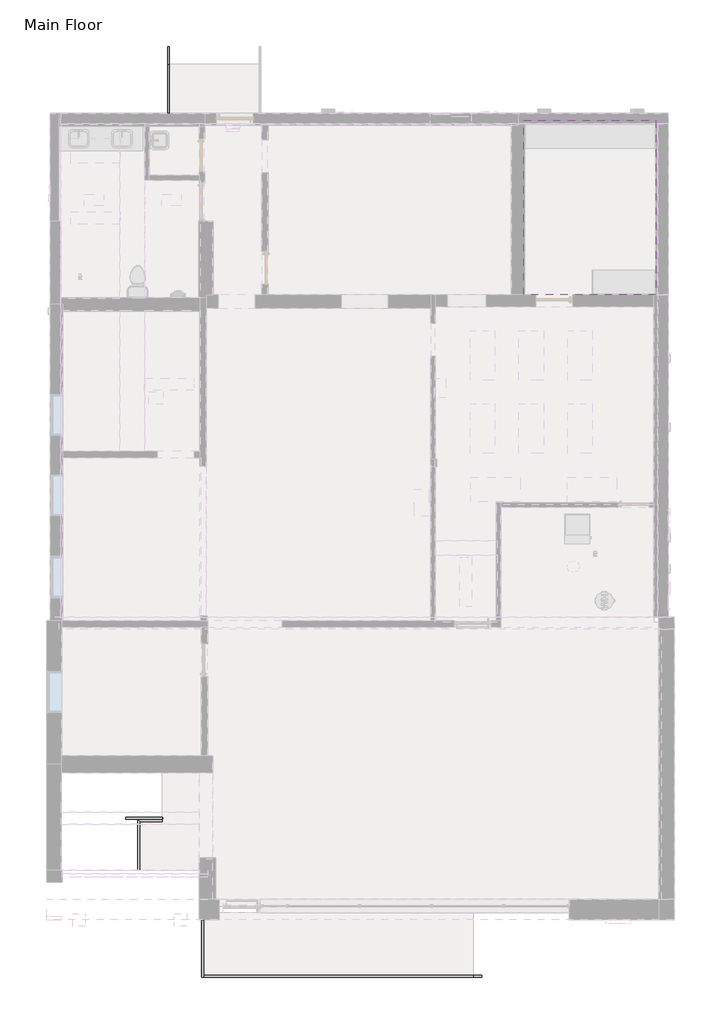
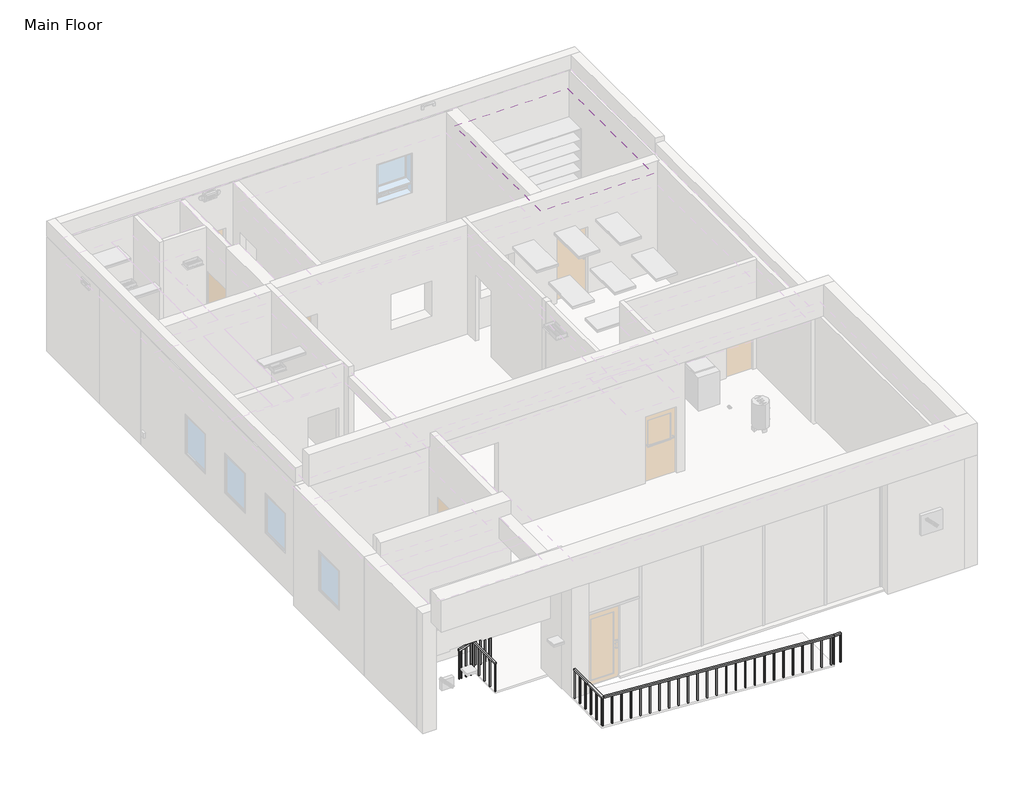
# One storey, part 3 of 4: 4 railings, 1 covering.
"""IFC4 building model written with IfcOpenShell, lengths in millimetres."""

import ifcopenshell
import ifcopenshell.guid

model = None  # the IFC model being written
_history = None  # IfcOwnerHistory: only IFC2X3 demands one
_inside = {}  # id of a spatial element -> (the spatial element, [elements in it])
_under = {}  # id of a project, library or spatial element -> (it, [spatial elements below it])
_declared = {}  # id of a project -> (the project, [libraries it declares])
_typed = {}  # id of a type object -> (the type object, [elements of that type])
_made_of = {}  # id of a material, layer set ... -> (it, [elements and type objects made of it])


def new_model(schema):
    """Start an empty IFC model of exactly this schema.

    Asked for "IFC4X3", IfcOpenShell would pick the latest addendum, in which some entities
    have other attributes; the version numbers below select the first issue.
    IFC2X3 requires an IfcOwnerHistory on every rooted entity: one is made here for all.
    """
    global model, _history
    if schema == "IFC4X3":
        model = ifcopenshell.file(schema_version=(4, 3, 0, 0))
    else:
        model = ifcopenshell.file(schema=schema)
    _inside.clear()
    _under.clear()
    _declared.clear()
    _typed.clear()
    _made_of.clear()
    _history = None
    if model.schema == "IFC2X3":
        org = make("IfcOrganization", Name="unknown")
        user = make(
            "IfcPersonAndOrganization",
            ThePerson=make("IfcPerson", FamilyName="unknown"),
            TheOrganization=org,
        )
        app = make(
            "IfcApplication",
            ApplicationDeveloper=org,
            Version="unknown",
            ApplicationFullName="unknown",
            ApplicationIdentifier="unknown",
        )
        _history = make(
            "IfcOwnerHistory",
            OwningUser=user,
            OwningApplication=app,
            ChangeAction="ADDED",
            CreationDate=0,
        )
    return model


def make(cls, **values):
    """One entity of the class cls with the attributes given. An attribute that is None is left unset."""
    return model.create_entity(
        cls, **{name: value for name, value in values.items() if value is not None}
    )


def rooted(cls, **values):
    """An entity with a GlobalId (a new one), such as an element, a storey or a relation."""
    return make(cls, GlobalId=ifcopenshell.guid.new(), OwnerHistory=_history, **values)


def si_unit(unit_type, name, prefix=None):
    """IfcSIUnit, for example si_unit("LENGTHUNIT", "METRE", prefix="MILLI")."""
    return make("IfcSIUnit", UnitType=unit_type, Prefix=prefix, Name=name)


def assignment(units):
    """IfcUnitAssignment: the units of a project."""
    return None if units is None else make("IfcUnitAssignment", Units=units)


def point(xyz):
    """IfcCartesianPoint."""
    return None if xyz is None else make("IfcCartesianPoint", Coordinates=xyz)


def direction(xyz):
    """IfcDirection."""
    return None if xyz is None else make("IfcDirection", DirectionRatios=xyz)


def frame(location, z_axis=None, x_axis=None):
    """IfcAxis2Placement3D, a coordinate frame: its origin and axes. An axis left out is left unset."""
    return make(
        "IfcAxis2Placement3D",
        Location=point(location),
        Axis=direction(z_axis),
        RefDirection=direction(x_axis),
    )


def frame_2d(location, x_axis=None):
    """IfcAxis2Placement2D, a coordinate frame in the plane: its origin and x axis."""
    return make(
        "IfcAxis2Placement2D", Location=point(location), RefDirection=direction(x_axis)
    )


def origin():
    """The frame at (0, 0, 0) with its axes left unset."""
    return frame((0.0, 0.0, 0.0))


def origin_with_axes():
    """The frame at (0, 0, 0) with the z axis (0, 0, 1) and the x axis (1, 0, 0) written out."""
    return frame((0.0, 0.0, 0.0), z_axis=(0.0, 0.0, 1.0), x_axis=(1.0, 0.0, 0.0))


def place(relative_to, where):
    """IfcLocalPlacement: puts the frame where relative to a parent placement (None: the world)."""
    return make(
        "IfcLocalPlacement", PlacementRelTo=relative_to, RelativePlacement=where
    )


def context(
    kind, dimensions, precision=None, world=None, true_north=None, identifier=None
):
    """IfcGeometricRepresentationContext, for example the 3D "Model" context."""
    return make(
        "IfcGeometricRepresentationContext",
        ContextIdentifier=identifier,
        ContextType=kind,
        CoordinateSpaceDimension=dimensions,
        Precision=precision,
        WorldCoordinateSystem=world,
        TrueNorth=true_north,
    )


def project(units=None, contexts=None):
    """IfcProject with its units and contexts."""
    return rooted(
        "IfcProject",
        Name="project",
        RepresentationContexts=contexts,
        UnitsInContext=assignment(units),
    )


def spatial(cls, under=None, at=None, **own):
    """A site, building, storey or space (cls), placed at a placement, below another one or the project."""
    s = rooted(cls, ObjectPlacement=at, **own)
    if under is not None:
        _under.setdefault(under.id(), (under, []))[1].append(s)
    return s


def polyline(points):
    """IfcPolyline through the points."""
    return make("IfcPolyline", Points=[point(p) for p in points])


def circle_curve(where, radius):
    """IfcCircle in the frame where."""
    return make("IfcCircle", Position=where, Radius=radius)


def ellipse_curve(where, semi_axis1, semi_axis2):
    """IfcEllipse in the frame where."""
    return make(
        "IfcEllipse", Position=where, SemiAxis1=semi_axis1, SemiAxis2=semi_axis2
    )


def trimmed(basis, trim1, trim2, sense, master):
    """IfcTrimmedCurve: the piece of a basis curve between two trims."""
    return make(
        "IfcTrimmedCurve",
        BasisCurve=basis,
        Trim1=trim1,
        Trim2=trim2,
        SenseAgreement=sense,
        MasterRepresentation=master,
    )


def segment(curve, same_sense, transition):
    """IfcCompositeCurveSegment."""
    return make(
        "IfcCompositeCurveSegment",
        Transition=transition,
        SameSense=same_sense,
        ParentCurve=curve,
    )


def composite_curve(segments, self_intersect=None):
    """IfcCompositeCurve: segments joined end to end."""
    return make("IfcCompositeCurve", Segments=segments, SelfIntersect=self_intersect)


def outline(outer, holes=None, kind="AREA"):
    """IfcArbitraryClosedProfileDef: a profile drawn as a closed curve; with holes, ...WithVoids."""
    if holes is None:
        return make("IfcArbitraryClosedProfileDef", ProfileType=kind, OuterCurve=outer)
    return make(
        "IfcArbitraryProfileDefWithVoids",
        ProfileType=kind,
        OuterCurve=outer,
        InnerCurves=holes,
    )


def extrude(swept, where, along, depth):
    """IfcExtrudedAreaSolid: the profile swept, set in the frame where, extruded along a direction by depth."""
    return make(
        "IfcExtrudedAreaSolid",
        SweptArea=swept,
        Position=where,
        ExtrudedDirection=direction(along),
        Depth=depth,
    )


def faces_of(points, faces, orient=None, outer=None):
    """IfcFace entities. A face is a list of loops; a loop is a list of indices into points, from 0.

    orient and outer hold one flag for each loop. By default every Orientation is true, the
    first loop of a face is its IfcFaceOuterBound and the others are IfcFaceBound.
    """
    made = []
    for i, loops in enumerate(faces):
        bounds = []
        for j, loop in enumerate(loops):
            is_outer = j == 0 if outer is None else outer[i][j]
            bounds.append(
                make(
                    "IfcFaceOuterBound" if is_outer else "IfcFaceBound",
                    Bound=make("IfcPolyLoop", Polygon=[points[k] for k in loop]),
                    Orientation=True if orient is None else orient[i][j],
                )
            )
        made.append(make("IfcFace", Bounds=bounds))
    return made


def faceted_brep(points, faces, orient=None, outer=None, voids=None):
    """IfcFacetedBrep: a solid bounded by flat faces; with voids (closed shells), ...WithVoids."""
    shared = [point(p) for p in points]
    hull = make("IfcClosedShell", CfsFaces=faces_of(shared, faces, orient, outer))
    if voids is None:
        return make("IfcFacetedBrep", Outer=hull)
    return make(
        "IfcFacetedBrepWithVoids",
        Outer=hull,
        Voids=[
            make(cls, CfsFaces=faces_of(shared, fs, o, b)) for cls, fs, o, b in voids
        ],
    )


def shape(context_of_items, identifier, shape_type, items):
    """IfcShapeRepresentation: the items that make up one representation, for example the "Body"."""
    return make(
        "IfcShapeRepresentation",
        ContextOfItems=context_of_items,
        RepresentationIdentifier=identifier,
        RepresentationType=shape_type,
        Items=items,
    )


def made_of(thing, what):
    """Note that an element or type object is made of a material, layer set ...; save() writes the relation."""
    if what is not None:
        _made_of.setdefault(what.id(), (what, []))[1].append(thing)
    return thing


def element(
    cls,
    number,
    at=None,
    inside=None,
    cuts=None,
    type_object=None,
    material=None,
    context=None,
    identifier="Body",
    shape_type=None,
    held_by="IfcProductDefinitionShape",
    body=None,
    shapes=None,
    **own,
):
    """One element of the class cls, such as IfcWall. Its Tag is "e" and its number.

    at: its placement. inside: the storey or other place that contains it. cuts: it is an
    opening in that element (IfcRelVoidsElement). A single representation is given by context,
    identifier, shape_type and body (its items); several are given by shapes. held_by: the class
    of the entity that holds the representations. save() writes the other relations.
    """
    e = rooted(cls, Tag="e%d" % number, ObjectPlacement=at, **own)
    if body is not None:
        shapes = [shape(context, identifier, shape_type, body)]
    if shapes is not None:
        e.Representation = make(held_by, Representations=shapes)
    if inside is not None:
        _inside.setdefault(inside.id(), (inside, []))[1].append(e)
    if cuts is not None:
        rooted(
            "IfcRelVoidsElement", RelatingBuildingElement=cuts, RelatedOpeningElement=e
        )
    if type_object is not None:
        _typed.setdefault(type_object.id(), (type_object, []))[1].append(e)
    return made_of(e, material)


def aggregate(whole, parts):
    """IfcRelAggregates: a whole, such as a stair, and the parts it consists of."""
    return rooted("IfcRelAggregates", RelatingObject=whole, RelatedObjects=parts)


def save(model, path):
    """Write the relations noted so far, then the file.

    IfcRelAggregates (storeys below a building ...), IfcRelContainedInSpatialStructure (elements
    in a storey), IfcRelDefinesByType, IfcRelAssociatesMaterial and IfcRelDeclares: one each for
    every whole, place, type object, material and project.
    """
    for whole, parts in _under.values():
        aggregate(whole, parts)
    for where, things in _inside.values():
        rooted(
            "IfcRelContainedInSpatialStructure",
            RelatedElements=things,
            RelatingStructure=where,
        )
    for kind, things in _typed.values():
        rooted("IfcRelDefinesByType", RelatedObjects=things, RelatingType=kind)
    for what, things in _made_of.values():
        rooted("IfcRelAssociatesMaterial", RelatedObjects=things, RelatingMaterial=what)
    for by, libraries in _declared.values():
        rooted("IfcRelDeclares", RelatingContext=by, RelatedDefinitions=libraries)
    model.write(path)


def plane_surface(at):
    """IfcPlane: the flat surface through the origin of the frame at, square to its z axis."""
    return make("IfcPlane", Position=at)


def cylinder_surface(at, radius):
    """IfcCylindricalSurface: all points at the distance radius from the z axis of the frame at."""
    return make("IfcCylindricalSurface", Position=at, Radius=radius)


def advanced_brep(points, edges, surfaces, faces):
    """IfcAdvancedBrep: a solid bounded by faces that lie on surfaces and meet in shared edges.

    An edge is (start, end): straight between two places in points (the first is 0);
    or (start, end, curve); or (start, end, curve, False) where it runs against its curve.
    A face is (place in surfaces, loops), or (place, loops, False) where it looks against
    its surface's normal. A loop lists edges by number (the first is 1), with a minus sign
    where the edge is run from its end to its start. The first loop is the outer one.
    """
    corners = [point(p) for p in points]
    vertices = [make("IfcVertexPoint", VertexGeometry=c) for c in corners]
    made = []
    for start, end, *more in edges:
        made.append(
            make(
                "IfcEdgeCurve",
                EdgeStart=vertices[start],
                EdgeEnd=vertices[end],
                EdgeGeometry=more[0] if more else make("IfcPolyline", Points=[corners[start], corners[end]]),
                SameSense=more[1] if len(more) > 1 else True,
            )
        )
    hull = []
    for where, loops, *sense in faces:
        bounds = []
        for j, loop in enumerate(loops):
            ring = [make("IfcOrientedEdge", EdgeElement=made[abs(k) - 1], Orientation=k > 0) for k in loop]
            bounds.append(
                make(
                    "IfcFaceOuterBound" if j == 0 else "IfcFaceBound",
                    Bound=make("IfcEdgeLoop", EdgeList=ring),
                    Orientation=True,
                )
            )
        hull.append(make("IfcAdvancedFace", Bounds=bounds, FaceSurface=surfaces[where], SameSense=sense[0] if sense else True))
    return make("IfcAdvancedBrep", Outer=make("IfcClosedShell", CfsFaces=hull))


model = new_model("IFC4")

# Units and contexts
model_context = context("Model", 3, world=origin())
ifc_project = project(units=[si_unit("LENGTHUNIT", "METRE", prefix="MILLI")], contexts=[model_context])

# Site, building, storey
site = spatial("IfcSite", under=ifc_project)
building = spatial("IfcBuilding", under=site)
storey = spatial("IfcBuildingStorey", under=building, Name="Main Floor", Elevation=0.0)

# Covering
placement = place(None, origin())
element("IfcCovering", 1, ObjectType="2'x4' grid", at=placement, inside=storey, context=model_context, shape_type="Brep", body=[
    faceted_brep([(15544.8, 11401.425, 2795.2), (12287.0452, 11401.425, 2795.2), (12287.0452, 7092.95, 2795.2), (15544.8, 7092.95, 2795.2), (15544.8, 11401.425, 2743.2), (15544.8, 7092.95, 2743.2), (12287.0452, 7092.95, 2743.2), (12287.0452, 11401.425, 2743.2), (13912.6452, 10461.625, 2743.2), (13912.6452, 9293.225, 2743.2), (14471.4452, 9293.225, 2743.2), (14471.4452, 10461.625, 2743.2), (13912.6452, 10461.625, 2794.0), (13912.6452, 9293.225, 2794.0), (14471.4452, 9293.225, 2794.0), (14471.4452, 10461.625, 2794.0)], [[[0, 1, 2, 3]], [[4, 5, 6, 7], [8, 9, 10, 11]], [[1, 0, 4, 7]], [[2, 1, 7, 6]], [[3, 2, 6, 5]], [[0, 3, 5, 4]], [[12, 13, 9, 8]], [[13, 14, 10, 9]], [[14, 15, 11, 10]], [[15, 12, 8, 11]], [[12, 15, 14, 13]]]),
])

# Railings
element("IfcRailing", 2, ObjectType="900mm Pipe", at=placement, inside=storey, context=model_context, shape_type="SolidModel", body=[
    advanced_brep(
    [(3506.3363986, 13220.7, 570.7192329), (3546.3363986, 13220.7, 570.7192329), (3506.3363986, 11569.7, 880.0), (3546.3363986, 11569.7, 880.0), (3506.3363986, 12782.5522466, 880.0), (3546.3363986, 12782.5522466, 880.0)],
    [
        (0, 1, ellipse_curve(frame((3526.3363986, 13220.7, 570.7192329), z_axis=(0.0, 1.0, 0.0), x_axis=(0.0, 0.0, -1.0)), 24.4807671, 20.0)),
        (1, 0, ellipse_curve(frame((3526.3363986, 13220.7, 570.7192329), z_axis=(0.0, 1.0, 0.0), x_axis=(0.0, 0.0, -1.0)), 24.4807671, 20.0)),
        (2, 3, circle_curve(frame((3526.3363986, 11569.7, 880.0), z_axis=(0.0, -1.0, 0.0), x_axis=(1.0, 0.0, 0.0)), 20.0)),
        (3, 2, circle_curve(frame((3526.3363986, 11569.7, 880.0), z_axis=(0.0, -1.0, 0.0), x_axis=(1.0, 0.0, 0.0)), 20.0)),
        (0, 4),
        (4, 5, ellipse_curve(frame((3526.3363986, 12782.5522466, 880.0), z_axis=(0.0, 0.9531442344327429, -0.30251622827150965), x_axis=(0.0, -0.3025162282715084, -0.9531442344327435)), 20.9831831, 20.0)),
        (5, 1),
        (5, 4, ellipse_curve(frame((3526.3363986, 12782.5522466, 880.0), z_axis=(0.0, 0.9531442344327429, -0.30251622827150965), x_axis=(0.0, -0.3025162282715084, -0.9531442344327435)), 20.9831831, 20.0)),
        (4, 2),
        (3, 5),
    ],
    [
        plane_surface(frame((3526.3363986, 13220.7, 595.2), z_axis=(0.0, 1.0, 0.0), x_axis=(0.0, 0.0, -1.0))),
        plane_surface(frame((3526.3363986, 11569.7, 900.0), z_axis=(0.0, -1.0, 0.0), x_axis=(0.0, 0.0, -1.0))),
        cylinder_surface(frame((3526.3363986, 13209.166336, 578.8606427), z_axis=(0.0, 0.8169678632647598, -0.5766831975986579), x_axis=(1.0, 0.0, 0.0)), 20.0),
        cylinder_surface(frame((3526.3363986, 12788.9, 880.0), z_axis=(0.0, 1.0, 0.0), x_axis=(1.0, 0.0, 0.0)), 20.0),
    ],
    [
        (0, [[1, 2]]),
        (1, [[3, 4]]),
        (2, [[-1, 5, 6, 7]]),
        (2, [[-2, -7, 8, -5]]),
        (3, [[-6, 9, -4, 10]]),
        (3, [[-8, -10, -3, -9]]),
    ],
),
    advanced_brep(
    [(3511.3363986, 11569.7, 760.0), (3541.3363986, 11569.7, 760.0), (3511.3363986, 12784.1391849, 760.0), (3541.3363986, 12784.1391849, 760.0), (3511.3363986, 13220.7, 451.8394247), (3541.3363986, 13220.7, 451.8394247)],
    [
        (0, 1, circle_curve(frame((3526.3363986, 11569.7, 760.0), z_axis=(0.0, -1.0, 0.0), x_axis=(1.0, 0.0, 0.0)), 15.0)),
        (1, 0, circle_curve(frame((3526.3363986, 11569.7, 760.0), z_axis=(0.0, -1.0, 0.0), x_axis=(1.0, 0.0, 0.0)), 15.0)),
        (0, 2),
        (2, 3, ellipse_curve(frame((3526.3363986, 12784.1391849, 760.0), z_axis=(0.0, -0.9531442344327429, 0.30251622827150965), x_axis=(0.0, -0.30251622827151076, -0.9531442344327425)), 15.7373873, 15.0)),
        (3, 1),
        (3, 2, ellipse_curve(frame((3526.3363986, 12784.1391849, 760.0), z_axis=(0.0, -0.9531442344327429, 0.30251622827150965), x_axis=(0.0, -0.30251622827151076, -0.9531442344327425)), 15.7373873, 15.0)),
        (4, 5, ellipse_curve(frame((3526.3363986, 13220.7, 451.8394247), z_axis=(0.0, 1.0, 0.0), x_axis=(0.0, 0.0, 1.0)), 18.3605753, 15.0)),
        (5, 4, ellipse_curve(frame((3526.3363986, 13220.7, 451.8394247), z_axis=(0.0, 1.0, 0.0), x_axis=(0.0, 0.0, 1.0)), 18.3605753, 15.0)),
        (2, 4),
        (5, 3),
    ],
    [
        plane_surface(frame((3526.3363986, 11569.7, 775.0), z_axis=(0.0, -1.0, 0.0), x_axis=(0.0, 0.0, 1.0))),
        cylinder_surface(frame((3526.3363986, 11569.7, 760.0), z_axis=(0.0, -1.0, 0.0), x_axis=(1.0, 0.0, 0.0)), 15.0),
        plane_surface(frame((3526.3363986, 13220.7, 470.2), z_axis=(0.0, 1.0, 0.0), x_axis=(0.0, 0.0, 1.0))),
        cylinder_surface(frame((3526.3363986, 12780.249752, 762.7454821), z_axis=(0.0, -0.8169678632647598, 0.576683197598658), x_axis=(1.0, 0.0, 0.0)), 15.0),
    ],
    [
        (0, [[1, 2]]),
        (1, [[-1, 3, 4, 5]]),
        (1, [[-2, -5, 6, -3]]),
        (2, [[7, 8]]),
        (3, [[-4, 9, -8, 10]]),
        (3, [[-6, -10, -7, -9]]),
    ],
),
    advanced_brep(
    [(3511.3363986, 11569.7, 635.0), (3541.3363986, 11569.7, 635.0), (3511.3363986, 12784.1391849, 635.0), (3541.3363986, 12784.1391849, 635.0), (3511.3363986, 13220.7, 326.8394247), (3541.3363986, 13220.7, 326.8394247)],
    [
        (0, 1, circle_curve(frame((3526.3363986, 11569.7, 635.0), z_axis=(0.0, -1.0, 0.0), x_axis=(1.0, 0.0, 0.0)), 15.0)),
        (1, 0, circle_curve(frame((3526.3363986, 11569.7, 635.0), z_axis=(0.0, -1.0, 0.0), x_axis=(1.0, 0.0, 0.0)), 15.0)),
        (0, 2),
        (2, 3, ellipse_curve(frame((3526.3363986, 12784.1391849, 635.0), z_axis=(0.0, -0.9531442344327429, 0.30251622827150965), x_axis=(0.0, -0.30251622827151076, -0.9531442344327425)), 15.7373873, 15.0)),
        (3, 1),
        (3, 2, ellipse_curve(frame((3526.3363986, 12784.1391849, 635.0), z_axis=(0.0, -0.9531442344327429, 0.30251622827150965), x_axis=(0.0, -0.30251622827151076, -0.9531442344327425)), 15.7373873, 15.0)),
        (4, 5, ellipse_curve(frame((3526.3363986, 13220.7, 326.8394247), z_axis=(0.0, 1.0, 0.0), x_axis=(0.0, 0.0, 1.0)), 18.3605753, 15.0)),
        (5, 4, ellipse_curve(frame((3526.3363986, 13220.7, 326.8394247), z_axis=(0.0, 1.0, 0.0), x_axis=(0.0, 0.0, 1.0)), 18.3605753, 15.0)),
        (2, 4),
        (5, 3),
    ],
    [
        plane_surface(frame((3526.3363986, 11569.7, 650.0), z_axis=(0.0, -1.0, 0.0), x_axis=(0.0, 0.0, 1.0))),
        cylinder_surface(frame((3526.3363986, 11569.7, 635.0), z_axis=(0.0, -1.0, 0.0), x_axis=(1.0, 0.0, 0.0)), 15.0),
        plane_surface(frame((3526.3363986, 13220.7, 345.2), z_axis=(0.0, 1.0, 0.0), x_axis=(0.0, 0.0, 1.0))),
        cylinder_surface(frame((3526.3363986, 12780.249752, 637.7454821), z_axis=(0.0, -0.8169678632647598, 0.576683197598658), x_axis=(1.0, 0.0, 0.0)), 15.0),
    ],
    [
        (0, [[1, 2]]),
        (1, [[-1, 3, 4, 5]]),
        (1, [[-2, -5, 6, -3]]),
        (2, [[7, 8]]),
        (3, [[-4, 9, -8, 10]]),
        (3, [[-6, -10, -7, -9]]),
    ],
),
    advanced_brep(
    [(3511.3363986, 11569.7, 510.0), (3541.3363986, 11569.7, 510.0), (3511.3363986, 12784.1391849, 510.0), (3541.3363986, 12784.1391849, 510.0), (3511.3363986, 13220.7, 201.8394247), (3541.3363986, 13220.7, 201.8394247)],
    [
        (0, 1, circle_curve(frame((3526.3363986, 11569.7, 510.0), z_axis=(0.0, -1.0, 0.0), x_axis=(1.0, 0.0, 0.0)), 15.0)),
        (1, 0, circle_curve(frame((3526.3363986, 11569.7, 510.0), z_axis=(0.0, -1.0, 0.0), x_axis=(1.0, 0.0, 0.0)), 15.0)),
        (0, 2),
        (2, 3, ellipse_curve(frame((3526.3363986, 12784.1391849, 510.0), z_axis=(0.0, -0.9531442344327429, 0.30251622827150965), x_axis=(0.0, -0.30251622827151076, -0.9531442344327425)), 15.7373873, 15.0)),
        (3, 1),
        (3, 2, ellipse_curve(frame((3526.3363986, 12784.1391849, 510.0), z_axis=(0.0, -0.9531442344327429, 0.30251622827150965), x_axis=(0.0, -0.30251622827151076, -0.9531442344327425)), 15.7373873, 15.0)),
        (4, 5, ellipse_curve(frame((3526.3363986, 13220.7, 201.8394247), z_axis=(0.0, 1.0, 0.0), x_axis=(0.0, 0.0, 1.0)), 18.3605753, 15.0)),
        (5, 4, ellipse_curve(frame((3526.3363986, 13220.7, 201.8394247), z_axis=(0.0, 1.0, 0.0), x_axis=(0.0, 0.0, 1.0)), 18.3605753, 15.0)),
        (2, 4),
        (5, 3),
    ],
    [
        plane_surface(frame((3526.3363986, 11569.7, 525.0), z_axis=(0.0, -1.0, 0.0), x_axis=(0.0, 0.0, 1.0))),
        cylinder_surface(frame((3526.3363986, 11569.7, 510.0), z_axis=(0.0, -1.0, 0.0), x_axis=(1.0, 0.0, 0.0)), 15.0),
        plane_surface(frame((3526.3363986, 13220.7, 220.2), z_axis=(0.0, 1.0, 0.0), x_axis=(0.0, 0.0, 1.0))),
        cylinder_surface(frame((3526.3363986, 12780.249752, 512.7454821), z_axis=(0.0, -0.8169678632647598, 0.576683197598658), x_axis=(1.0, 0.0, 0.0)), 15.0),
    ],
    [
        (0, [[1, 2]]),
        (1, [[-1, 3, 4, 5]]),
        (1, [[-2, -5, 6, -3]]),
        (2, [[7, 8]]),
        (3, [[-4, 9, -8, 10]]),
        (3, [[-6, -10, -7, -9]]),
    ],
),
    advanced_brep(
    [(3511.3363986, 11569.7, 385.0), (3541.3363986, 11569.7, 385.0), (3511.3363986, 12784.1391849, 385.0), (3541.3363986, 12784.1391849, 385.0), (3511.3363986, 13220.7, 76.8394247), (3541.3363986, 13220.7, 76.8394247)],
    [
        (0, 1, circle_curve(frame((3526.3363986, 11569.7, 385.0), z_axis=(0.0, -1.0, 0.0), x_axis=(1.0, 0.0, 0.0)), 15.0)),
        (1, 0, circle_curve(frame((3526.3363986, 11569.7, 385.0), z_axis=(0.0, -1.0, 0.0), x_axis=(1.0, 0.0, 0.0)), 15.0)),
        (0, 2),
        (2, 3, ellipse_curve(frame((3526.3363986, 12784.1391849, 385.0), z_axis=(0.0, -0.9531442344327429, 0.30251622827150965), x_axis=(0.0, -0.30251622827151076, -0.9531442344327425)), 15.7373873, 15.0)),
        (3, 1),
        (3, 2, ellipse_curve(frame((3526.3363986, 12784.1391849, 385.0), z_axis=(0.0, -0.9531442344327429, 0.30251622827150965), x_axis=(0.0, -0.30251622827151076, -0.9531442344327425)), 15.7373873, 15.0)),
        (4, 5, ellipse_curve(frame((3526.3363986, 13220.7, 76.8394247), z_axis=(0.0, 1.0, 0.0), x_axis=(0.0, 0.0, 1.0)), 18.3605753, 15.0)),
        (5, 4, ellipse_curve(frame((3526.3363986, 13220.7, 76.8394247), z_axis=(0.0, 1.0, 0.0), x_axis=(0.0, 0.0, 1.0)), 18.3605753, 15.0)),
        (2, 4),
        (5, 3),
    ],
    [
        plane_surface(frame((3526.3363986, 11569.7, 400.0), z_axis=(0.0, -1.0, 0.0), x_axis=(0.0, 0.0, 1.0))),
        cylinder_surface(frame((3526.3363986, 11569.7, 385.0), z_axis=(0.0, -1.0, 0.0), x_axis=(1.0, 0.0, 0.0)), 15.0),
        plane_surface(frame((3526.3363986, 13220.7, 95.2), z_axis=(0.0, 1.0, 0.0), x_axis=(0.0, 0.0, 1.0))),
        cylinder_surface(frame((3526.3363986, 12780.249752, 387.7454821), z_axis=(0.0, -0.8169678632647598, 0.576683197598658), x_axis=(1.0, 0.0, 0.0)), 15.0),
    ],
    [
        (0, [[1, 2]]),
        (1, [[-1, 3, 4, 5]]),
        (1, [[-2, -5, 6, -3]]),
        (2, [[7, 8]]),
        (3, [[-4, 9, -8, 10]]),
        (3, [[-6, -10, -7, -9]]),
    ],
),
    advanced_brep(
    [(3511.3363986, 11569.7, 260.0), (3541.3363986, 11569.7, 260.0), (3511.3363986, 12784.1391849, 260.0), (3541.3363986, 12784.1391849, 260.0), (3511.3363986, 13220.7, -48.1605753), (3541.3363986, 13220.7, -48.1605753)],
    [
        (0, 1, circle_curve(frame((3526.3363986, 11569.7, 260.0), z_axis=(0.0, -1.0, 0.0), x_axis=(1.0, 0.0, 0.0)), 15.0)),
        (1, 0, circle_curve(frame((3526.3363986, 11569.7, 260.0), z_axis=(0.0, -1.0, 0.0), x_axis=(1.0, 0.0, 0.0)), 15.0)),
        (0, 2),
        (2, 3, ellipse_curve(frame((3526.3363986, 12784.1391849, 260.0), z_axis=(0.0, -0.9531442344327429, 0.30251622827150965), x_axis=(0.0, -0.30251622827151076, -0.9531442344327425)), 15.7373873, 15.0)),
        (3, 1),
        (3, 2, ellipse_curve(frame((3526.3363986, 12784.1391849, 260.0), z_axis=(0.0, -0.9531442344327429, 0.30251622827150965), x_axis=(0.0, -0.30251622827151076, -0.9531442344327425)), 15.7373873, 15.0)),
        (4, 5, ellipse_curve(frame((3526.3363986, 13220.7, -48.1605753), z_axis=(0.0, 1.0, 0.0), x_axis=(0.0, 0.0, 1.0)), 18.3605753, 15.0)),
        (5, 4, ellipse_curve(frame((3526.3363986, 13220.7, -48.1605753), z_axis=(0.0, 1.0, 0.0), x_axis=(0.0, 0.0, 1.0)), 18.3605753, 15.0)),
        (2, 4),
        (5, 3),
    ],
    [
        plane_surface(frame((3526.3363986, 11569.7, 275.0), z_axis=(0.0, -1.0, 0.0), x_axis=(0.0, 0.0, 1.0))),
        cylinder_surface(frame((3526.3363986, 11569.7, 260.0), z_axis=(0.0, -1.0, 0.0), x_axis=(1.0, 0.0, 0.0)), 15.0),
        plane_surface(frame((3526.3363986, 13220.7, -29.8), z_axis=(0.0, 1.0, 0.0), x_axis=(0.0, 0.0, 1.0))),
        cylinder_surface(frame((3526.3363986, 12780.249752, 262.7454821), z_axis=(0.0, -0.8169678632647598, 0.576683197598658), x_axis=(1.0, 0.0, 0.0)), 15.0),
    ],
    [
        (0, [[1, 2]]),
        (1, [[-1, 3, 4, 5]]),
        (1, [[-2, -5, 6, -3]]),
        (2, [[7, 8]]),
        (3, [[-4, 9, -8, 10]]),
        (3, [[-6, -10, -7, -9]]),
    ],
),
    advanced_brep(
    [(3511.3363986, 11569.7, 135.0), (3541.3363986, 11569.7, 135.0), (3511.3363986, 12784.1391849, 135.0), (3541.3363986, 12784.1391849, 135.0), (3511.3363986, 13220.7, -173.1605753), (3541.3363986, 13220.7, -173.1605753)],
    [
        (0, 1, circle_curve(frame((3526.3363986, 11569.7, 135.0), z_axis=(0.0, -1.0, 0.0), x_axis=(1.0, 0.0, 0.0)), 15.0)),
        (1, 0, circle_curve(frame((3526.3363986, 11569.7, 135.0), z_axis=(0.0, -1.0, 0.0), x_axis=(1.0, 0.0, 0.0)), 15.0)),
        (0, 2),
        (2, 3, ellipse_curve(frame((3526.3363986, 12784.1391849, 135.0), z_axis=(0.0, -0.9531442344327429, 0.30251622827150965), x_axis=(0.0, -0.30251622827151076, -0.9531442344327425)), 15.7373873, 15.0)),
        (3, 1),
        (3, 2, ellipse_curve(frame((3526.3363986, 12784.1391849, 135.0), z_axis=(0.0, -0.9531442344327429, 0.30251622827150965), x_axis=(0.0, -0.30251622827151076, -0.9531442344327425)), 15.7373873, 15.0)),
        (4, 5, ellipse_curve(frame((3526.3363986, 13220.7, -173.1605753), z_axis=(0.0, 1.0, 0.0), x_axis=(0.0, 0.0, 1.0)), 18.3605753, 15.0)),
        (5, 4, ellipse_curve(frame((3526.3363986, 13220.7, -173.1605753), z_axis=(0.0, 1.0, 0.0), x_axis=(0.0, 0.0, 1.0)), 18.3605753, 15.0)),
        (2, 4),
        (5, 3),
    ],
    [
        plane_surface(frame((3526.3363986, 11569.7, 150.0), z_axis=(0.0, -1.0, 0.0), x_axis=(0.0, 0.0, 1.0))),
        cylinder_surface(frame((3526.3363986, 11569.7, 135.0), z_axis=(0.0, -1.0, 0.0), x_axis=(1.0, 0.0, 0.0)), 15.0),
        plane_surface(frame((3526.3363986, 13220.7, -154.8), z_axis=(0.0, 1.0, 0.0), x_axis=(0.0, 0.0, 1.0))),
        cylinder_surface(frame((3526.3363986, 12780.249752, 137.7454821), z_axis=(0.0, -0.8169678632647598, 0.576683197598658), x_axis=(1.0, 0.0, 0.0)), 15.0),
    ],
    [
        (0, [[1, 2]]),
        (1, [[-1, 3, 4, 5]]),
        (1, [[-2, -5, 6, -3]]),
        (2, [[7, 8]]),
        (3, [[-4, 9, -8, 10]]),
        (3, [[-6, -10, -7, -9]]),
    ],
),
    extrude(outline(composite_curve([segment(trimmed(circle_curve(frame_2d((3526.3363986, 12569.7)), 12.5), [point((3513.8363986, 12569.7))], [point((3538.8363986, 12569.7))], False, "CARTESIAN"), True, "CONTINUOUS"), segment(trimmed(circle_curve(frame_2d((3526.3363986, 12569.7)), 12.5), [point((3538.8363986, 12569.7))], [point((3513.8363986, 12569.7))], False, "CARTESIAN"), True, "CONTINUOUS")], self_intersect=False)), origin_with_axes(), (0.0, 0.0, 1.0), 860.0),
    advanced_brep(
    [(3538.8363986, 13208.2, 555.0619952), (3538.8363986, 13208.2, -304.8), (3513.8363986, 13208.2, -304.8), (3513.8363986, 13208.2, 555.0619952)],
    [
        (0, 1),
        (1, 2, circle_curve(frame((3526.3363986, 13208.2, -304.8), z_axis=(0.0, 0.0, 1.0), x_axis=(-1.0, 0.0, 0.0)), 12.5)),
        (2, 3),
        (3, 0, ellipse_curve(frame((3526.3363986, 13208.2, 555.0619952), z_axis=(0.0, -0.5766831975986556, -0.8169678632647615), x_axis=(0.0, -0.8169678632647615, 0.5766831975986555)), 15.3004794, 12.5)),
        (0, 3, ellipse_curve(frame((3526.3363986, 13208.2, 555.0619952), z_axis=(0.0, -0.5766831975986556, -0.8169678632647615), x_axis=(0.0, -0.8169678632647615, 0.5766831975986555)), 15.3004794, 12.5)),
        (2, 1, circle_curve(frame((3526.3363986, 13208.2, -304.8), z_axis=(0.0, 0.0, 1.0), x_axis=(-1.0, 0.0, 0.0)), 12.5)),
    ],
    [
        cylinder_surface(frame((3526.3363986, 13208.2, -404.8), z_axis=(0.0, 0.0, 1.0), x_axis=(-1.0, 0.0, 0.0)), 12.5),
        plane_surface(frame((3501.3363986, 13233.2, 537.4149364), z_axis=(0.0, 0.5766831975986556, 0.8169678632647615), x_axis=(1.0, 0.0, 0.0))),
        plane_surface(frame((3501.3363986, 13183.2, -304.8), z_axis=(0.0, 0.0, -1.0), x_axis=(1.0, 0.0, 0.0))),
    ],
    [
        (0, [[1, 2, 3, 4]]),
        (0, [[-1, 5, -3, 6]]),
        (1, [[-4, -5]]),
        (2, [[-2, -6]]),
    ],
),
    extrude(outline(composite_curve([segment(trimmed(circle_curve(frame_2d((3526.3363986, 11582.2)), 12.5), [point((3513.8363986, 11582.2))], [point((3538.8363986, 11582.2))], False, "CARTESIAN"), True, "CONTINUOUS"), segment(trimmed(circle_curve(frame_2d((3526.3363986, 11582.2)), 12.5), [point((3538.8363986, 11582.2))], [point((3513.8363986, 11582.2))], False, "CARTESIAN"), True, "CONTINUOUS")], self_intersect=False)), origin_with_axes(), (0.0, 0.0, 1.0), 860.0),
])
element("IfcRailing", 3, ObjectType="900mm Rectangular", at=placement, inside=storey, context=model_context, shape_type="SolidModel", body=[
    faceted_brep([(2762.65, -7100.57, 900.0), (2762.65, -7100.57, 850.0), (2812.65, -7100.57, 850.0), (2812.65, -7100.57, 900.0), (2762.65, -5856.37, 900.0), (2762.65, -5856.37, 850.0), (2812.65, -5906.37, 850.0), (2812.65, -5906.37, 900.0), (3365.5, -5856.37, 900.0), (3365.5, -5906.37, 900.0), (3365.5, -5906.37, 850.0), (3365.5, -5856.37, 850.0)], [[[0, 1, 2, 3]], [[1, 0, 4, 5]], [[2, 1, 5, 6]], [[3, 2, 6, 7]], [[0, 3, 7, 4]], [[8, 9, 10, 11]], [[5, 4, 8, 11]], [[6, 5, 11, 10]], [[7, 6, 10, 9]], [[4, 7, 9, 8]]]),
    extrude(outline(polyline([(3325.15, -5893.87), (3325.15, -5868.87), (3350.15, -5868.87), (3350.15, -5893.87), (3325.15, -5893.87)])), origin_with_axes(), (0.0, 0.0, 1.0), 850.0),
    extrude(outline(polyline([(3050.15, -5893.87), (3050.15, -5868.87), (3075.15, -5868.87), (3075.15, -5893.87), (3050.15, -5893.87)])), origin_with_axes(), (0.0, 0.0, 1.0), 850.0),
    extrude(outline(polyline([(2800.15, -6013.07), (2775.15, -6013.07), (2775.15, -5988.07), (2800.15, -5988.07), (2800.15, -6013.07)])), origin_with_axes(), (0.0, 0.0, 1.0), 850.0),
    extrude(outline(polyline([(2800.15, -6288.07), (2775.15, -6288.07), (2775.15, -6263.07), (2800.15, -6263.07), (2800.15, -6288.07)])), origin_with_axes(), (0.0, 0.0, 1.0), 850.0),
    extrude(outline(polyline([(2800.15, -6563.07), (2775.15, -6563.07), (2775.15, -6538.07), (2800.15, -6538.07), (2800.15, -6563.07)])), origin_with_axes(), (0.0, 0.0, 1.0), 850.0),
    extrude(outline(polyline([(2800.15, -6838.07), (2775.15, -6838.07), (2775.15, -6813.07), (2800.15, -6813.07), (2800.15, -6838.07)])), origin_with_axes(), (0.0, 0.0, 1.0), 850.0),
    extrude(outline(polyline([(2800.15, -5893.87), (2775.15, -5893.87), (2775.15, -5868.87), (2800.15, -5868.87), (2800.15, -5893.87)])), origin_with_axes(), (0.0, 0.0, 1.0), 850.0),
    extrude(outline(polyline([(3340.5, -5893.87), (3340.5, -5868.87), (3365.5, -5868.87), (3365.5, -5893.87), (3340.5, -5893.87)])), origin_with_axes(), (0.0, 0.0, 1.0), 850.0),
    extrude(outline(polyline([(2800.15, -7100.57), (2775.15, -7100.57), (2775.15, -7075.57), (2800.15, -7075.57), (2800.15, -7100.57)])), origin_with_axes(), (0.0, 0.0, 1.0), 850.0),
])
element("IfcRailing", 4, ObjectType="900mm Rectangular", at=placement, inside=storey, context=model_context, shape_type="SweptSolid", body=[
    extrude(outline(polyline([(629.0666667, 2470.15), (576.8276236, 2470.15), (847.760957, 3365.5), (900.0, 3365.5), (629.0666667, 2470.15)])), frame((0.0, -5844.775, 0.0), z_axis=(0.0, 1.0, 0.0), x_axis=(0.0, 0.0, 1.0)), (0.0, 0.0, 1.0), 50.0),
    extrude(outline(polyline([(843.4942903, 3351.4), (-135.4666667, 3351.4), (-135.4666667, 3376.4), (851.0593021, 3376.4), (843.4942903, 3351.4)])), frame((0.0, -5832.275, 0.0), z_axis=(0.0, 1.0, 0.0), x_axis=(0.0, 0.0, 1.0)), (0.0, 0.0, 1.0), 25.0),
    extrude(outline(polyline([(801.8867253, 3213.9), (-135.4666667, 3213.9), (-135.4666667, 3238.9), (809.4517371, 3238.9), (801.8867253, 3213.9)])), frame((0.0, -5832.275, 0.0), z_axis=(0.0, 1.0, 0.0), x_axis=(0.0, 0.0, 1.0)), (0.0, 0.0, 1.0), 25.0),
    extrude(outline(polyline([(760.2791603, 3076.4), (-135.4666667, 3076.4), (-135.4666667, 3101.4), (767.8441721, 3101.4), (760.2791603, 3076.4)])), frame((0.0, -5832.275, 0.0), z_axis=(0.0, 1.0, 0.0), x_axis=(0.0, 0.0, 1.0)), (0.0, 0.0, 1.0), 25.0),
    extrude(outline(polyline([(718.6715953, 2938.9), (-135.4666667, 2938.9), (-135.4666667, 2963.9), (726.2366071, 2963.9), (718.6715953, 2938.9)])), frame((0.0, -5832.275, 0.0), z_axis=(0.0, 1.0, 0.0), x_axis=(0.0, 0.0, 1.0)), (0.0, 0.0, 1.0), 25.0),
    extrude(outline(polyline([(677.0640303, 2801.4), (-270.9333333, 2801.4), (-270.9333333, 2826.4), (684.6290421, 2826.4), (677.0640303, 2801.4)])), frame((0.0, -5832.275, 0.0), z_axis=(0.0, 1.0, 0.0), x_axis=(0.0, 0.0, 1.0)), (0.0, 0.0, 1.0), 25.0),
    extrude(outline(polyline([(635.4564653, 2663.9), (-270.9333333, 2663.9), (-270.9333333, 2688.9), (643.0214771, 2688.9), (635.4564653, 2663.9)])), frame((0.0, -5832.275, 0.0), z_axis=(0.0, 1.0, 0.0), x_axis=(0.0, 0.0, 1.0)), (0.0, 0.0, 1.0), 25.0),
    extrude(outline(polyline([(593.8489002, 2526.4), (-270.9333333, 2526.4), (-270.9333333, 2551.4), (601.4139121, 2551.4), (593.8489002, 2526.4)])), frame((0.0, -5832.275, 0.0), z_axis=(0.0, 1.0, 0.0), x_axis=(0.0, 0.0, 1.0)), (0.0, 0.0, 1.0), 25.0),
    extrude(outline(polyline([(840.1959452, 3340.5), (-135.4666667, 3340.5), (-135.4666667, 3365.5), (847.760957, 3365.5), (840.1959452, 3340.5)])), frame((0.0, -5832.275, 0.0), z_axis=(0.0, 1.0, 0.0), x_axis=(0.0, 0.0, 1.0)), (0.0, 0.0, 1.0), 25.0),
    extrude(outline(polyline([(576.8276236, 2470.15), (-270.9333333, 2470.15), (-270.9333333, 2495.15), (584.3926355, 2495.15), (576.8276236, 2470.15)])), frame((0.0, -5832.275, 0.0), z_axis=(0.0, 1.0, 0.0), x_axis=(0.0, 0.0, 1.0)), (0.0, 0.0, 1.0), 25.0),
])
element("IfcRailing", 5, ObjectType="900mm Rectangular", at=placement, inside=storey, context=model_context, shape_type="SolidModel", body=[
    faceted_brep([(4387.45, -8318.5, 898.2684017), (4387.45, -8318.5, 848.2684017), (4337.45, -8318.5, 848.2684017), (4337.45, -8318.5, 898.2684017), (4387.45, -9740.5, 898.2684017), (4337.45, -9740.5, 898.2684017), (4337.45, -9740.5, 848.2684017), (4387.45, -9740.5, 848.2684017)], [[[0, 1, 2, 3]], [[4, 5, 6, 7]], [[1, 0, 4, 7]], [[2, 1, 7, 6]], [[3, 2, 6, 5]], [[0, 3, 5, 4]]]),
    faceted_brep([(4387.45, -9690.5, 896.5640727), (4387.45, -9690.5, 846.4480179), (4387.45, -9740.5, 846.4480179), (4387.45, -9740.5, 896.5640727), (11042.65, -9690.5, 442.8580536), (11040.9476466, -9690.5, 392.8580536), (11040.9476466, -9740.5, 392.8580536), (11042.65, -9740.5, 442.8580536), (11245.85, -9690.5, 442.8580536), (11245.85, -9740.5, 442.8580536), (11245.85, -9740.5, 392.8580536), (11245.85, -9690.5, 392.8580536)], [[[0, 1, 2, 3]], [[1, 0, 4, 5]], [[2, 1, 5, 6]], [[3, 2, 6, 7]], [[0, 3, 7, 4]], [[8, 9, 10, 11]], [[5, 4, 8, 11]], [[6, 5, 11, 10]], [[7, 6, 10, 9]], [[4, 7, 9, 8]]]),
    extrude(outline(polyline([(399.0616508, 10949.95), (-450.8222944, 10949.95), (-452.5266234, 10974.95), (397.3573218, 10974.95), (399.0616508, 10949.95)])), frame((0.0, -9728.0, 0.0), z_axis=(0.0, 1.0, 0.0), x_axis=(0.0, 0.0, 1.0)), (0.0, 0.0, 1.0), 25.0),
    extrude(outline(polyline([(417.80927, 10674.95), (-432.0746752, 10674.95), (-433.7790042, 10699.95), (416.104941, 10699.95), (417.80927, 10674.95)])), frame((0.0, -9728.0, 0.0), z_axis=(0.0, 1.0, 0.0), x_axis=(0.0, 0.0, 1.0)), (0.0, 0.0, 1.0), 25.0),
    extrude(outline(polyline([(436.5568892, 10399.95), (-413.327056, 10399.95), (-415.031385, 10424.95), (434.8525602, 10424.95), (436.5568892, 10399.95)])), frame((0.0, -9728.0, 0.0), z_axis=(0.0, 1.0, 0.0), x_axis=(0.0, 0.0, 1.0)), (0.0, 0.0, 1.0), 25.0),
    extrude(outline(polyline([(455.3045084, 10124.95), (-394.5794368, 10124.95), (-396.2837658, 10149.95), (453.6001794, 10149.95), (455.3045084, 10124.95)])), frame((0.0, -9728.0, 0.0), z_axis=(0.0, 1.0, 0.0), x_axis=(0.0, 0.0, 1.0)), (0.0, 0.0, 1.0), 25.0),
    extrude(outline(polyline([(474.0521276, 9849.95), (-375.8318176, 9849.95), (-377.5361466, 9874.95), (472.3477986, 9874.95), (474.0521276, 9849.95)])), frame((0.0, -9728.0, 0.0), z_axis=(0.0, 1.0, 0.0), x_axis=(0.0, 0.0, 1.0)), (0.0, 0.0, 1.0), 25.0),
    extrude(outline(polyline([(492.7997468, 9574.95), (-357.0841984, 9574.95), (-358.7885274, 9599.95), (491.0954178, 9599.95), (492.7997468, 9574.95)])), frame((0.0, -9728.0, 0.0), z_axis=(0.0, 1.0, 0.0), x_axis=(0.0, 0.0, 1.0)), (0.0, 0.0, 1.0), 25.0),
    extrude(outline(polyline([(511.547366, 9299.95), (-338.3365792, 9299.95), (-340.0409082, 9324.95), (509.843037, 9324.95), (511.547366, 9299.95)])), frame((0.0, -9728.0, 0.0), z_axis=(0.0, 1.0, 0.0), x_axis=(0.0, 0.0, 1.0)), (0.0, 0.0, 1.0), 25.0),
    extrude(outline(polyline([(530.2949852, 9024.95), (-319.58896, 9024.95), (-321.293289, 9049.95), (528.5906561, 9049.95), (530.2949852, 9024.95)])), frame((0.0, -9728.0, 0.0), z_axis=(0.0, 1.0, 0.0), x_axis=(0.0, 0.0, 1.0)), (0.0, 0.0, 1.0), 25.0),
    extrude(outline(polyline([(549.0426044, 8749.95), (-300.8413408, 8749.95), (-302.5456699, 8774.95), (547.3382753, 8774.95), (549.0426044, 8749.95)])), frame((0.0, -9728.0, 0.0), z_axis=(0.0, 1.0, 0.0), x_axis=(0.0, 0.0, 1.0)), (0.0, 0.0, 1.0), 25.0),
    extrude(outline(polyline([(567.7902235, 8474.95), (-282.0937216, 8474.95), (-283.7980507, 8499.95), (566.0858945, 8499.95), (567.7902235, 8474.95)])), frame((0.0, -9728.0, 0.0), z_axis=(0.0, 1.0, 0.0), x_axis=(0.0, 0.0, 1.0)), (0.0, 0.0, 1.0), 25.0),
    extrude(outline(polyline([(586.5378427, 8199.95), (-263.3461025, 8199.95), (-265.0504315, 8224.95), (584.8335137, 8224.95), (586.5378427, 8199.95)])), frame((0.0, -9728.0, 0.0), z_axis=(0.0, 1.0, 0.0), x_axis=(0.0, 0.0, 1.0)), (0.0, 0.0, 1.0), 25.0),
    extrude(outline(polyline([(605.2854619, 7924.95), (-244.5984833, 7924.95), (-246.3028123, 7949.95), (603.5811329, 7949.95), (605.2854619, 7924.95)])), frame((0.0, -9728.0, 0.0), z_axis=(0.0, 1.0, 0.0), x_axis=(0.0, 0.0, 1.0)), (0.0, 0.0, 1.0), 25.0),
    extrude(outline(polyline([(624.0330811, 7649.95), (-225.8508641, 7649.95), (-227.5551931, 7674.95), (622.3287521, 7674.95), (624.0330811, 7649.95)])), frame((0.0, -9728.0, 0.0), z_axis=(0.0, 1.0, 0.0), x_axis=(0.0, 0.0, 1.0)), (0.0, 0.0, 1.0), 25.0),
    extrude(outline(polyline([(642.7807003, 7374.95), (-207.1032449, 7374.95), (-208.8075739, 7399.95), (641.0763713, 7399.95), (642.7807003, 7374.95)])), frame((0.0, -9728.0, 0.0), z_axis=(0.0, 1.0, 0.0), x_axis=(0.0, 0.0, 1.0)), (0.0, 0.0, 1.0), 25.0),
    extrude(outline(polyline([(661.5283195, 7099.95), (-188.3556257, 7099.95), (-190.0599547, 7124.95), (659.8239905, 7124.95), (661.5283195, 7099.95)])), frame((0.0, -9728.0, 0.0), z_axis=(0.0, 1.0, 0.0), x_axis=(0.0, 0.0, 1.0)), (0.0, 0.0, 1.0), 25.0),
    extrude(outline(polyline([(680.2759387, 6824.95), (-169.6080065, 6824.95), (-171.3123355, 6849.95), (678.5716097, 6849.95), (680.2759387, 6824.95)])), frame((0.0, -9728.0, 0.0), z_axis=(0.0, 1.0, 0.0), x_axis=(0.0, 0.0, 1.0)), (0.0, 0.0, 1.0), 25.0),
    extrude(outline(polyline([(699.0235579, 6549.95), (-150.8603873, 6549.95), (-152.5647163, 6574.95), (697.3192289, 6574.95), (699.0235579, 6549.95)])), frame((0.0, -9728.0, 0.0), z_axis=(0.0, 1.0, 0.0), x_axis=(0.0, 0.0, 1.0)), (0.0, 0.0, 1.0), 25.0),
    extrude(outline(polyline([(717.7711771, 6274.95), (-132.1127681, 6274.95), (-133.8170971, 6299.95), (716.0668481, 6299.95), (717.7711771, 6274.95)])), frame((0.0, -9728.0, 0.0), z_axis=(0.0, 1.0, 0.0), x_axis=(0.0, 0.0, 1.0)), (0.0, 0.0, 1.0), 25.0),
    extrude(outline(polyline([(736.5187963, 5999.95), (-113.3651489, 5999.95), (-115.0694779, 6024.95), (734.8144673, 6024.95), (736.5187963, 5999.95)])), frame((0.0, -9728.0, 0.0), z_axis=(0.0, 1.0, 0.0), x_axis=(0.0, 0.0, 1.0)), (0.0, 0.0, 1.0), 25.0),
    extrude(outline(polyline([(755.2664155, 5724.95), (-94.6175297, 5724.95), (-96.3218587, 5749.95), (753.5620864, 5749.95), (755.2664155, 5724.95)])), frame((0.0, -9728.0, 0.0), z_axis=(0.0, 1.0, 0.0), x_axis=(0.0, 0.0, 1.0)), (0.0, 0.0, 1.0), 25.0),
    extrude(outline(polyline([(774.0140347, 5449.95), (-75.8699105, 5449.95), (-77.5742396, 5474.95), (772.3097056, 5474.95), (774.0140347, 5449.95)])), frame((0.0, -9728.0, 0.0), z_axis=(0.0, 1.0, 0.0), x_axis=(0.0, 0.0, 1.0)), (0.0, 0.0, 1.0), 25.0),
    extrude(outline(polyline([(792.7616538, 5174.95), (-57.1222913, 5174.95), (-58.8266204, 5199.95), (791.0573248, 5199.95), (792.7616538, 5174.95)])), frame((0.0, -9728.0, 0.0), z_axis=(0.0, 1.0, 0.0), x_axis=(0.0, 0.0, 1.0)), (0.0, 0.0, 1.0), 25.0),
    extrude(outline(polyline([(811.509273, 4899.95), (-38.3746722, 4899.95), (-40.0790012, 4924.95), (809.804944, 4924.95), (811.509273, 4899.95)])), frame((0.0, -9728.0, 0.0), z_axis=(0.0, 1.0, 0.0), x_axis=(0.0, 0.0, 1.0)), (0.0, 0.0, 1.0), 25.0),
    extrude(outline(polyline([(830.2568922, 4624.95), (-19.627053, 4624.95), (-21.331382, 4649.95), (828.5525632, 4649.95), (830.2568922, 4624.95)])), frame((0.0, -9728.0, 0.0), z_axis=(0.0, 1.0, 0.0), x_axis=(0.0, 0.0, 1.0)), (0.0, 0.0, 1.0), 25.0),
    extrude(outline(polyline([(4349.95, -9681.0), (4374.95, -9681.0), (4374.95, -9706.0), (4349.95, -9706.0), (4349.95, -9681.0)])), frame((0.0, 0.0, -1.7315983), z_axis=(0.0, 0.0, 1.0), x_axis=(1.0, 0.0, 0.0)), (0.0, 0.0, 1.0), 850.0),
    extrude(outline(polyline([(4349.95, -9406.0), (4374.95, -9406.0), (4374.95, -9431.0), (4349.95, -9431.0), (4349.95, -9406.0)])), frame((0.0, 0.0, -1.7315983), z_axis=(0.0, 0.0, 1.0), x_axis=(1.0, 0.0, 0.0)), (0.0, 0.0, 1.0), 850.0),
    extrude(outline(polyline([(4349.95, -9131.0), (4374.95, -9131.0), (4374.95, -9156.0), (4349.95, -9156.0), (4349.95, -9131.0)])), frame((0.0, 0.0, -1.7315983), z_axis=(0.0, 0.0, 1.0), x_axis=(1.0, 0.0, 0.0)), (0.0, 0.0, 1.0), 850.0),
    extrude(outline(polyline([(4349.95, -8856.0), (4374.95, -8856.0), (4374.95, -8881.0), (4349.95, -8881.0), (4349.95, -8856.0)])), frame((0.0, 0.0, -1.7315983), z_axis=(0.0, 0.0, 1.0), x_axis=(1.0, 0.0, 0.0)), (0.0, 0.0, 1.0), 850.0),
    extrude(outline(polyline([(4349.95, -8581.0), (4374.95, -8581.0), (4374.95, -8606.0), (4349.95, -8606.0), (4349.95, -8581.0)])), frame((0.0, 0.0, -1.7315983), z_axis=(0.0, 0.0, 1.0), x_axis=(1.0, 0.0, 0.0)), (0.0, 0.0, 1.0), 850.0),
    extrude(outline(polyline([(393.5941633, 11030.15), (-456.2897819, 11030.15), (-457.9941109, 11055.15), (391.8898343, 11055.15), (393.5941633, 11030.15)])), frame((0.0, -9728.0, 0.0), z_axis=(0.0, 1.0, 0.0), x_axis=(0.0, 0.0, 1.0)), (0.0, 0.0, 1.0), 25.0),
    extrude(outline(polyline([(4349.95, -9703.0), (4374.95, -9703.0), (4374.95, -9728.0), (4349.95, -9728.0), (4349.95, -9703.0)])), frame((0.0, 0.0, -1.7315983), z_axis=(0.0, 0.0, 1.0), x_axis=(1.0, 0.0, 0.0)), (0.0, 0.0, 1.0), 850.0),
    extrude(outline(polyline([(11220.85, -9728.0), (11220.85, -9703.0), (11245.85, -9703.0), (11245.85, -9728.0), (11220.85, -9728.0)])), frame((0.0, 0.0, -457.1419464), z_axis=(0.0, 0.0, 1.0), x_axis=(1.0, 0.0, 0.0)), (0.0, 0.0, 1.0), 850.0),
    extrude(outline(polyline([(4349.95, -8318.5), (4374.95, -8318.5), (4374.95, -8343.5), (4349.95, -8343.5), (4349.95, -8318.5)])), frame((0.0, 0.0, -1.7315983), z_axis=(0.0, 0.0, 1.0), x_axis=(1.0, 0.0, 0.0)), (0.0, 0.0, 1.0), 850.0),
])

save(model, "model.ifc")
